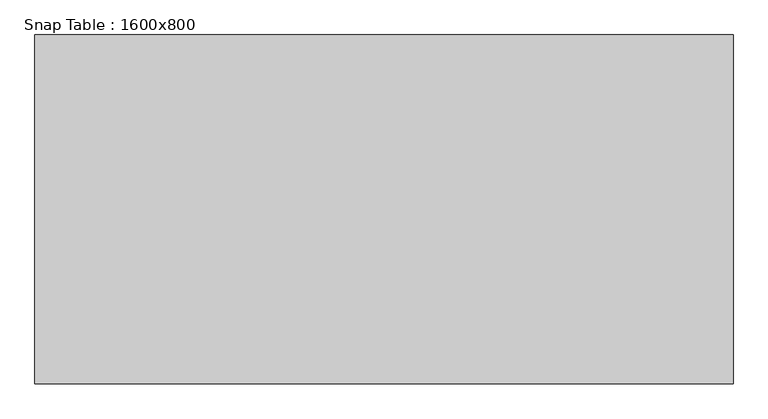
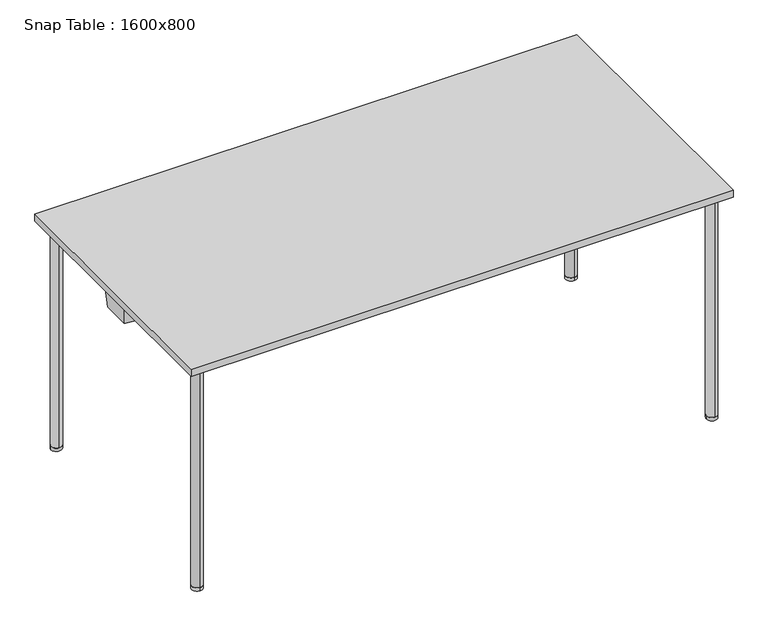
"""IFC4 building model written with IfcOpenShell, lengths in millimetres: furniture geometry, Snap Table : 1600x800."""

from ifc_helpers import new_model, si_unit, point, frame, frame_2d, origin, origin_with_axes, place, context, project, spatial, polyline, circle_curve, ellipse_curve, trimmed, segment, composite_curve, outline, extrude, faceted_brep, source, transform, mapped, element, save
from ifc_brep_helpers import plane_surface, cylinder_surface, revolved_surface, advanced_brep


def snap_table_1600x800_05bff866(model_context):
    return source(origin(), model_context, "Body", "SolidModel", [
        extrude(outline(composite_curve([segment(trimmed(circle_curve(frame_2d((760.0, -360.0)), 16.0), [point((776.0, -360.0))], [point((744.0, -360.0))], False, "CARTESIAN"), True, "CONTINUOUS"), segment(trimmed(circle_curve(frame_2d((760.0, -360.0)), 16.0), [point((744.0, -360.0))], [point((776.0, -360.0))], False, "CARTESIAN"), True, "CONTINUOUS")], self_intersect=False)), origin_with_axes(), (0.0, 0.0, 1.0), 10.0),
        extrude(outline(composite_curve([segment(trimmed(circle_curve(frame_2d((760.0, 360.0)), 16.0), [point((760.0, 344.0))], [point((760.0, 376.0))], False, "CARTESIAN"), True, "CONTINUOUS"), segment(trimmed(circle_curve(frame_2d((760.0, 360.0)), 16.0), [point((760.0, 376.0))], [point((760.0, 344.0))], False, "CARTESIAN"), True, "CONTINUOUS")], self_intersect=False)), origin_with_axes(), (0.0, 0.0, 1.0), 10.0),
        advanced_brep(
        [(760.0, -376.0, 10.0), (760.0, -344.0, 10.0), (760.0, -376.0, 689.0), (760.0, -344.0, 657.0), (760.0, 376.0, 689.0), (760.0, 344.0, 657.0), (760.0, 376.0, 10.0), (760.0, 344.0, 10.0)],
        [
            (0, 1, circle_curve(frame((760.0, -360.0, 10.0), z_axis=(0.0, 0.0, -1.0), x_axis=(0.0, 1.0, 0.0)), 16.0)),
            (1, 0, circle_curve(frame((760.0, -360.0, 10.0), z_axis=(0.0, 0.0, -1.0), x_axis=(0.0, 1.0, 0.0)), 16.0)),
            (0, 2),
            (2, 3, ellipse_curve(frame((760.0, -360.0, 673.0), z_axis=(0.0, -0.7071067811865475, -0.7071067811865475), x_axis=(0.0, 0.7071067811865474, -0.7071067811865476)), 22.627417, 16.0)),
            (3, 1),
            (3, 2, ellipse_curve(frame((760.0, -360.0, 673.0), z_axis=(0.0, -0.7071067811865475, -0.7071067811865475), x_axis=(0.0, 0.7071067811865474, -0.7071067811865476)), 22.627417, 16.0)),
            (2, 4),
            (4, 5, ellipse_curve(frame((760.0, 360.0, 673.0), z_axis=(0.0, -0.7071067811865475, 0.7071067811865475), x_axis=(0.0, -0.7071067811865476, -0.7071067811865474)), 22.627417, 16.0)),
            (5, 3),
            (5, 4, ellipse_curve(frame((760.0, 360.0, 673.0), z_axis=(0.0, -0.7071067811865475, 0.7071067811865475), x_axis=(0.0, -0.7071067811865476, -0.7071067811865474)), 22.627417, 16.0)),
            (6, 7, circle_curve(frame((760.0, 360.0, 10.0), z_axis=(0.0, 0.0, -1.0), x_axis=(0.0, -1.0, 0.0)), 16.0)),
            (7, 6, circle_curve(frame((760.0, 360.0, 10.0), z_axis=(0.0, 0.0, -1.0), x_axis=(0.0, -1.0, 0.0)), 16.0)),
            (4, 6),
            (7, 5),
        ],
        [
            plane_surface(frame((760.0, -360.0, 10.0), z_axis=(0.0, 0.0, -1.0), x_axis=(-1.0, 0.0, 0.0))),
            cylinder_surface(frame((760.0, -360.0, 10.0), z_axis=(0.0, 0.0, -1.0), x_axis=(0.0, 1.0, 0.0)), 16.0),
            cylinder_surface(frame((760.0, -360.0, 673.0), z_axis=(0.0, -1.0, 0.0), x_axis=(0.0, 0.0, -1.0)), 16.0),
            plane_surface(frame((760.0, 360.0, 10.0), z_axis=(0.0, 0.0, -1.0), x_axis=(-1.0, 0.0, 0.0))),
            cylinder_surface(frame((760.0, 360.0, 673.0), z_axis=(0.0, 0.0, 1.0), x_axis=(0.0, -1.0, 0.0)), 16.0),
        ],
        [
            (0, [[1, 2]]),
            (1, [[-1, 3, 4, 5]]),
            (1, [[-2, -5, 6, -3]]),
            (2, [[-4, 7, 8, 9]]),
            (2, [[-6, -9, 10, -7]]),
            (3, [[11, 12]]),
            (4, [[-8, 13, -12, 14]]),
            (4, [[-10, -14, -11, -13]]),
        ],
    ),
        extrude(outline(composite_curve([segment(trimmed(circle_curve(frame_2d((-760.0470276, 360.0)), 16.0), [point((-776.0470276, 360.0))], [point((-744.0470276, 360.0))], False, "CARTESIAN"), True, "CONTINUOUS"), segment(trimmed(circle_curve(frame_2d((-760.0470276, 360.0)), 16.0), [point((-744.0470276, 360.0))], [point((-776.0470276, 360.0))], False, "CARTESIAN"), True, "CONTINUOUS")], self_intersect=False)), origin_with_axes(), (0.0, 0.0, 1.0), 10.0),
        extrude(outline(composite_curve([segment(trimmed(circle_curve(frame_2d((-760.0470276, -360.0)), 16.0), [point((-760.0470276, -344.0))], [point((-760.0470276, -376.0))], False, "CARTESIAN"), True, "CONTINUOUS"), segment(trimmed(circle_curve(frame_2d((-760.0470276, -360.0)), 16.0), [point((-760.0470276, -376.0))], [point((-760.0470276, -344.0))], False, "CARTESIAN"), True, "CONTINUOUS")], self_intersect=False)), origin_with_axes(), (0.0, 0.0, 1.0), 10.0),
        advanced_brep(
        [(-760.0470276, 376.0, 10.0), (-760.0470276, 344.0, 10.0), (-760.0470276, 376.0, 689.0), (-760.0470276, 344.0, 657.0), (-760.0470276, -376.0, 689.0), (-760.0470276, -344.0, 657.0), (-760.0470276, -376.0, 10.0), (-760.0470276, -344.0, 10.0)],
        [
            (0, 1, circle_curve(frame((-760.0470276, 360.0, 10.0), z_axis=(0.0, 0.0, -1.0), x_axis=(0.0, -1.0, 0.0)), 16.0)),
            (1, 0, circle_curve(frame((-760.0470276, 360.0, 10.0), z_axis=(0.0, 0.0, -1.0), x_axis=(0.0, -1.0, 0.0)), 16.0)),
            (0, 2),
            (2, 3, ellipse_curve(frame((-760.0470276, 360.0, 673.0), z_axis=(0.0, 0.7071067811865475, -0.7071067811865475), x_axis=(0.0, -0.7071067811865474, -0.7071067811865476)), 22.627417, 16.0)),
            (3, 1),
            (3, 2, ellipse_curve(frame((-760.0470276, 360.0, 673.0), z_axis=(0.0, 0.7071067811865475, -0.7071067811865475), x_axis=(0.0, -0.7071067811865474, -0.7071067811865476)), 22.627417, 16.0)),
            (2, 4),
            (4, 5, ellipse_curve(frame((-760.0470276, -360.0, 673.0), z_axis=(0.0, 0.7071067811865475, 0.7071067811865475), x_axis=(0.0, 0.7071067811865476, -0.7071067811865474)), 22.627417, 16.0)),
            (5, 3),
            (5, 4, ellipse_curve(frame((-760.0470276, -360.0, 673.0), z_axis=(0.0, 0.7071067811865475, 0.7071067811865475), x_axis=(0.0, 0.7071067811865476, -0.7071067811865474)), 22.627417, 16.0)),
            (6, 7, circle_curve(frame((-760.0470276, -360.0, 10.0), z_axis=(0.0, 0.0, -1.0), x_axis=(0.0, 1.0, 0.0)), 16.0)),
            (7, 6, circle_curve(frame((-760.0470276, -360.0, 10.0), z_axis=(0.0, 0.0, -1.0), x_axis=(0.0, 1.0, 0.0)), 16.0)),
            (4, 6),
            (7, 5),
        ],
        [
            plane_surface(frame((-760.0470276, 360.0, 10.0), z_axis=(0.0, 0.0, -1.0), x_axis=(1.0, 0.0, 0.0))),
            cylinder_surface(frame((-760.0470276, 360.0, 10.0), z_axis=(0.0, 0.0, -1.0), x_axis=(0.0, -1.0, 0.0)), 16.0),
            cylinder_surface(frame((-760.0470276, 360.0, 673.0), z_axis=(0.0, 1.0, 0.0), x_axis=(0.0, 0.0, -1.0)), 16.0),
            plane_surface(frame((-760.0470276, -360.0, 10.0), z_axis=(0.0, 0.0, -1.0), x_axis=(1.0, 0.0, 0.0))),
            cylinder_surface(frame((-760.0470276, -360.0, 673.0), z_axis=(0.0, 0.0, 1.0), x_axis=(0.0, 1.0, 0.0)), 16.0),
        ],
        [
            (0, [[1, 2]]),
            (1, [[-1, 3, 4, 5]]),
            (1, [[-2, -5, 6, -3]]),
            (2, [[-4, 7, 8, 9]]),
            (2, [[-6, -9, 10, -7]]),
            (3, [[11, 12]]),
            (4, [[-8, 13, -12, 14]]),
            (4, [[-10, -14, -11, -13]]),
        ],
    ),
        extrude(outline(polyline([(800.0, 400.0), (800.0, -400.0), (-800.0, -400.0), (-800.0, 400.0), (800.0, 400.0)])), frame((0.0, 0.0, 698.0), z_axis=(0.0, 0.0, 1.0), x_axis=(1.0, 0.0, 0.0)), (0.0, 0.0, 1.0), 22.0),
        advanced_brep(
        [(-790.8110657, 42.2236058, 643.0), (-757.6910354, 44.5767873, 643.0), (-740.5708933, 36.0824003, 643.0), (740.5710292, 36.0824678, 643.0), (757.6910354, 44.5767873, 643.0), (790.8110657, 42.2236058, 643.0), (790.8110657, -42.2236058, 643.0), (757.6044607, -44.2417031, 643.0), (740.4018781, -36.0497649, 643.0), (-740.4020196, -36.0498323, 643.0), (-757.6044607, -44.2417031, 643.0), (-790.8110657, -42.2236058, 643.0), (-794.8110657, 48.9570516, 698.0), (-794.8110657, -48.9934252, 698.0), (-756.225892, -51.3383995, 698.0), (-734.6205129, -41.049832, 698.0), (734.6203726, -41.0497652, 698.0), (756.225892, -51.3383995, 698.0), (794.8110657, -48.9934252, 698.0), (794.8110657, 48.9570516, 698.0), (756.286594, 51.6942192, 698.0), (734.8989768, 41.0824675, 698.0), (-734.8988421, 41.0824006, 698.0), (-756.286594, 51.6942192, 698.0), (-757.2475737, -46.0789118, 657.2385232), (-776.0, -46.9489596, 673.0), (-756.4614069, -50.125999, 688.6037931), (-744.0, -41.9922101, 673.0), (757.2475737, -46.0789118, 657.2385232), (744.0, -41.9922101, 673.0), (756.4614069, -50.125999, 688.6037931), (776.0, -46.9489596, 673.0), (757.3278029, 46.4175782, 657.2247231), (776.0, 47.1037405, 673.0), (756.5261576, 50.4801582, 688.618336), (744.0, 42.0461233, 673.0), (-757.3278029, 46.4175782, 657.2247231), (-744.0, 42.0461233, 673.0), (-756.5261576, 50.4801582, 688.618336), (-776.0, 47.1037405, 673.0)],
        [
            (0, 1),
            (1, 2),
            (2, 3),
            (3, 4),
            (4, 5),
            (5, 6),
            (6, 7),
            (7, 8),
            (8, 9),
            (9, 10),
            (10, 11),
            (11, 0),
            (12, 13),
            (13, 14),
            (14, 15),
            (15, 16),
            (16, 17),
            (17, 18),
            (18, 19),
            (19, 20),
            (20, 21),
            (21, 22),
            (22, 23),
            (23, 12),
            (11, 13),
            (12, 0),
            (10, 24),
            (24, 25, ellipse_curve(frame((-760.0, -47.9213432, 673.0), z_axis=(0.06017662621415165, 0.9901710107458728, 0.12625427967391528), x_axis=(0.42602826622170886, -0.13986196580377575, 0.8938336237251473)), 16.1588249, 16.0)),
            (25, 26, ellipse_curve(frame((-760.0, -47.9213432, 673.0), z_axis=(0.06017662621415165, 0.9901710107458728, 0.12625427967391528), x_axis=(0.42602826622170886, -0.13986196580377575, 0.8938336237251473)), 16.1588249, 16.0)),
            (26, 14),
            (9, 15),
            (26, 27, ellipse_curve(frame((-760.0, -49.6114737, 673.0), z_axis=(-0.4265030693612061, 0.8956310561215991, 0.12625427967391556), x_axis=(-0.8587935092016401, -0.4447977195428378, 0.254221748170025)), 17.8644989, 16.0)),
            (27, 24, ellipse_curve(frame((-760.0, -49.6114737, 673.0), z_axis=(-0.4265030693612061, 0.8956310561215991, 0.12625427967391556), x_axis=(-0.8587935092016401, -0.4447977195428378, 0.254221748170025)), 17.8644989, 16.0)),
            (8, 16),
            (7, 28),
            (28, 29, ellipse_curve(frame((760.0, -49.6114737, 673.0), z_axis=(0.4265030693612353, 0.8956310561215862, 0.12625427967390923), x_axis=(0.8587935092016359, -0.4447977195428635, 0.2542217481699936)), 17.8644989, 16.0)),
            (29, 30, ellipse_curve(frame((760.0, -49.6114737, 673.0), z_axis=(0.4265030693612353, 0.8956310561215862, 0.12625427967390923), x_axis=(0.8587935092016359, -0.4447977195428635, 0.2542217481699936)), 17.8644989, 16.0)),
            (30, 17),
            (6, 18),
            (30, 31, ellipse_curve(frame((760.0, -47.9213432, 673.0), z_axis=(-0.06017662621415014, 0.9901710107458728, 0.12625427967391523), x_axis=(-0.42602826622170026, -0.13986196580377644, 0.8938336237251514)), 16.1588249, 16.0)),
            (31, 28, ellipse_curve(frame((760.0, -47.9213432, 673.0), z_axis=(-0.06017662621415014, 0.9901710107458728, 0.12625427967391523), x_axis=(-0.42602826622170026, -0.13986196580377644, 0.8938336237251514)), 16.1588249, 16.0)),
            (5, 19),
            (4, 32),
            (32, 33, ellipse_curve(frame((760.0, 48.2405422, 673.0), z_axis=(-0.0703043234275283, -0.9895034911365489, 0.12625427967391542), x_axis=(0.48139832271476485, -0.14450896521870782, -0.8645072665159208)), 16.1697257, 16.0)),
            (33, 34, ellipse_curve(frame((760.0, 48.2405422, 673.0), z_axis=(-0.0703043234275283, -0.9895034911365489, 0.12625427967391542), x_axis=(0.48139832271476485, -0.14450896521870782, -0.8645072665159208)), 16.1697257, 16.0)),
            (34, 20),
            (3, 21),
            (34, 35, ellipse_curve(frame((760.0, 49.9847369, 673.0), z_axis=(0.4409053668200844, -0.8886294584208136, 0.12625427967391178), x_axis=(-0.8542943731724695, -0.4586258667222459, -0.24462918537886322)), 18.005255, 16.0)),
            (35, 32, ellipse_curve(frame((760.0, 49.9847369, 673.0), z_axis=(0.4409053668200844, -0.8886294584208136, 0.12625427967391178), x_axis=(-0.8542943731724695, -0.4586258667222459, -0.24462918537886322)), 18.005255, 16.0)),
            (2, 22),
            (1, 36),
            (36, 37, ellipse_curve(frame((-760.0, 49.9847369, 673.0), z_axis=(-0.44090536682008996, -0.8886294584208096, 0.12625427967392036), x_axis=(0.8542943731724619, -0.4586258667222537, -0.24462918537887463)), 18.005255, 16.0)),
            (37, 38, ellipse_curve(frame((-760.0, 49.9847369, 673.0), z_axis=(-0.44090536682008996, -0.8886294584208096, 0.12625427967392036), x_axis=(0.8542943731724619, -0.4586258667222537, -0.24462918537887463)), 18.005255, 16.0)),
            (38, 23),
            (38, 39, ellipse_curve(frame((-760.0, 48.2405422, 673.0), z_axis=(0.07030432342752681, -0.9895034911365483, 0.12625427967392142), x_axis=(-0.48139832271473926, -0.14450896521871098, -0.8645072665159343)), 16.1697257, 16.0)),
            (39, 36, ellipse_curve(frame((-760.0, 48.2405422, 673.0), z_axis=(0.07030432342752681, -0.9895034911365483, 0.12625427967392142), x_axis=(-0.48139832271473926, -0.14450896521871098, -0.8645072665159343)), 16.1697257, 16.0)),
            (35, 29),
            (31, 33),
            (39, 25),
            (27, 37),
        ],
        [
            plane_surface(frame((-5e-07, 0.0612866, 643.0), z_axis=(0.0, 0.0, -1.0), x_axis=(0.0, -1.0, 0.0))),
            plane_surface(frame((-5e-07, 0.0586803, 698.0), z_axis=(0.0, 0.0, 1.0), x_axis=(0.0, -1.0, 0.0))),
            plane_surface(frame((-794.8110657, -0.0181868, 698.0), z_axis=(-0.9973658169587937, 0.0, -0.07253569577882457), x_axis=(0.0, 1.0, 0.0))),
            plane_surface(frame((-775.5184789, -50.1659123, 698.0), z_axis=(-0.06017662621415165, -0.9901710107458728, -0.12625427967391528), x_axis=(-0.9981583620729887, 0.06066204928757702, 0.0))),
            plane_surface(frame((-745.4232025, -46.1941158, 698.0), z_axis=(0.4265030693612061, -0.8956310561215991, -0.12625427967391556), x_axis=(-0.9028557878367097, -0.4299435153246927, 0.0))),
            plane_surface(frame((-7.01e-05, -41.0497986, 698.0), z_axis=(4.533442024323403e-08, -0.9958932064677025, -0.09053574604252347), x_axis=(-0.999999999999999, -4.552136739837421e-08, 0.0))),
            plane_surface(frame((745.4231323, -46.1940824, 698.0), z_axis=(-0.4265030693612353, -0.8956310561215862, -0.12625427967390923), x_axis=(-0.9028557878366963, 0.42994351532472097, 0.0))),
            plane_surface(frame((775.5184789, -50.1659123, 698.0), z_axis=(0.06017662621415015, -0.990171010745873, -0.12625427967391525), x_axis=(-0.9981583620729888, -0.06066204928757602, 0.0))),
            plane_surface(frame((794.8110657, -0.0181868, 698.0), z_axis=(0.997365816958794, 0.0, -0.07253569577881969), x_axis=(0.0, -1.0, 0.0))),
            plane_surface(frame((775.5488298, 50.3256354, 698.0), z_axis=(0.0703043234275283, 0.9895034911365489, -0.12625427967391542), x_axis=(0.9974854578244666, -0.07087144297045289, 0.0))),
            plane_surface(frame((745.5927854, 46.3883433, 698.0), z_axis=(-0.4409053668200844, 0.8886294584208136, -0.12625427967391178), x_axis=(0.8957977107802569, 0.44446199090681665, 0.0))),
            plane_surface(frame((6.73e-05, 41.082434, 698.0), z_axis=(-4.533603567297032e-08, 0.995893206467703, -0.09053574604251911), x_axis=(0.999999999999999, 4.552298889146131e-08, 0.0))),
            plane_surface(frame((-745.5927181, 46.3883099, 698.0), z_axis=(0.44090536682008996, 0.8886294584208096, -0.12625427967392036), x_axis=(0.8957977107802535, -0.4444619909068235, 0.0))),
            plane_surface(frame((-775.5488298, 50.3256354, 698.0), z_axis=(-0.07030432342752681, 0.9895034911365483, -0.12625427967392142), x_axis=(0.9974854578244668, 0.07087144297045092, 0.0))),
            revolved_surface(polyline([(776.0, -57.557562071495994, 673.0), (776.0, 58.242412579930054, 673.0)]), (760.0, 70.0, 673.0), (0.0, -1.0, 0.0)),
            revolved_surface(polyline([(-776.0, -57.55756207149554, 673.0), (-776.0, 58.24241257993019, 673.0)]), (-760.0, 70.0, 673.0), (0.0, -1.0, 0.0)),
        ],
        [
            (0, [[1, 2, 3, 4, 5, 6, 7, 8, 9, 10, 11, 12]]),
            (1, [[13, 14, 15, 16, 17, 18, 19, 20, 21, 22, 23, 24]]),
            (2, [[-12, 25, -13, 26]]),
            (3, [[-11, 27, 28, 29, 30, -14, -25]]),
            (4, [[-10, 31, -15, -30, 32, 33, -27]]),
            (5, [[-9, 34, -16, -31]]),
            (6, [[-8, 35, 36, 37, 38, -17, -34]]),
            (7, [[-7, 39, -18, -38, 40, 41, -35]]),
            (8, [[-6, 42, -19, -39]]),
            (9, [[-5, 43, 44, 45, 46, -20, -42]]),
            (10, [[-4, 47, -21, -46, 48, 49, -43]]),
            (11, [[-3, 50, -22, -47]]),
            (12, [[-2, 51, 52, 53, 54, -23, -50]]),
            (13, [[-1, -26, -24, -54, 55, 56, -51]]),
            (14, [[57, -36, -41, 58, -44, -49]]),
            (14, [[-57, -48, -45, -58, -40, -37]]),
            (15, [[59, -28, -33, 60, -52, -56]]),
            (15, [[-59, -55, -53, -60, -32, -29]]),
        ],
    ),
        faceted_brep([(730.1271057, 282.1409864, 643.0), (730.1271057, 327.0366315, 643.0), (741.3990784, 327.0366315, 643.0), (741.3990784, 282.1409864, 643.0), (726.2186584, 278.0138349, 688.0), (744.2631531, 278.0138349, 688.0), (744.2631531, 331.163783, 688.0), (726.2186584, 331.163783, 688.0)], [[[0, 1, 2, 3]], [[4, 5, 6, 7]], [[5, 4, 0, 3]], [[6, 5, 3, 2]], [[7, 6, 2, 1]], [[4, 7, 1, 0]]]),
        extrude(outline(polyline([(726.2186584, 331.163783), (777.86026, 331.163783), (777.86026, 278.0138349), (726.2186584, 278.0138349), (726.2186584, 331.163783)])), frame((0.0, 0.0, 688.0), z_axis=(0.0, 0.0, 1.0), x_axis=(1.0, 0.0, 0.0)), (0.0, 0.0, 1.0), 10.0),
        faceted_brep([(730.1271057, -282.1409864, 643.0), (741.3990784, -282.1409864, 643.0), (741.3990784, -327.0366315, 643.0), (730.1271057, -327.0366315, 643.0), (726.2186584, -278.0138349, 688.0), (726.2186584, -331.163783, 688.0), (744.2631531, -331.163783, 688.0), (744.2631531, -278.0138349, 688.0)], [[[0, 1, 2, 3]], [[4, 5, 6, 7]], [[4, 7, 1, 0]], [[7, 6, 2, 1]], [[6, 5, 3, 2]], [[5, 4, 0, 3]]]),
        extrude(outline(polyline([(726.2186584, -331.163783), (726.2186584, -278.0138349), (777.86026, -278.0138349), (777.86026, -331.163783), (726.2186584, -331.163783)])), frame((0.0, 0.0, 688.0), z_axis=(0.0, 0.0, 1.0), x_axis=(1.0, 0.0, 0.0)), (0.0, 0.0, 1.0), 10.0),
        faceted_brep([(-730.1271057, 282.1409864, 643.0), (-741.3990784, 282.1409864, 643.0), (-741.3990784, 327.0366315, 643.0), (-730.1271057, 327.0366315, 643.0), (-726.2186584, 278.0138349, 688.0), (-726.2186584, 331.163783, 688.0), (-744.2631531, 331.163783, 688.0), (-744.2631531, 278.0138349, 688.0)], [[[0, 1, 2, 3]], [[4, 5, 6, 7]], [[4, 7, 1, 0]], [[7, 6, 2, 1]], [[6, 5, 3, 2]], [[5, 4, 0, 3]]]),
        extrude(outline(polyline([(-726.2186584, 331.163783), (-726.2186584, 278.0138349), (-777.86026, 278.0138349), (-777.86026, 331.163783), (-726.2186584, 331.163783)])), frame((0.0, 0.0, 688.0), z_axis=(0.0, 0.0, 1.0), x_axis=(1.0, 0.0, 0.0)), (0.0, 0.0, 1.0), 10.0),
        faceted_brep([(-730.1271057, -282.1409864, 643.0), (-730.1271057, -327.0366315, 643.0), (-741.3990784, -327.0366315, 643.0), (-741.3990784, -282.1409864, 643.0), (-726.2186584, -278.0138349, 688.0), (-744.2631531, -278.0138349, 688.0), (-744.2631531, -331.163783, 688.0), (-726.2186584, -331.163783, 688.0)], [[[0, 1, 2, 3]], [[4, 5, 6, 7]], [[5, 4, 0, 3]], [[6, 5, 3, 2]], [[7, 6, 2, 1]], [[4, 7, 1, 0]]]),
        extrude(outline(polyline([(-726.2186584, -331.163783), (-777.86026, -331.163783), (-777.86026, -278.0138349), (-726.2186584, -278.0138349), (-726.2186584, -331.163783)])), frame((0.0, 0.0, 688.0), z_axis=(0.0, 0.0, 1.0), x_axis=(1.0, 0.0, 0.0)), (0.0, 0.0, 1.0), 10.0),
    ])


if __name__ == "__main__":
    model = new_model("IFC4")
    model_context = context("Model", 3, world=origin())
    ifc_project = project(units=[si_unit("LENGTHUNIT", "METRE", prefix="MILLI")], contexts=[model_context])
    site = spatial("IfcSite", under=ifc_project)
    building = spatial("IfcBuilding", under=site)
    placement = place(None, origin())
    snap_table_1600x800_shape = snap_table_1600x800_05bff866(model_context)
    element("IfcFurniture", 1, ObjectType="Snap Table : 1600x800", at=placement, inside=building, context=model_context, shape_type="MappedRepresentation", body=[
        mapped(snap_table_1600x800_shape, transform((0.0, 0.0, 0.0), x_axis=(1.0, 0.0, 0.0), y_axis=(0.0, 1.0, 0.0), z_axis=(0.0, 0.0, 1.0))),
    ])
    save(model, "model.ifc")
